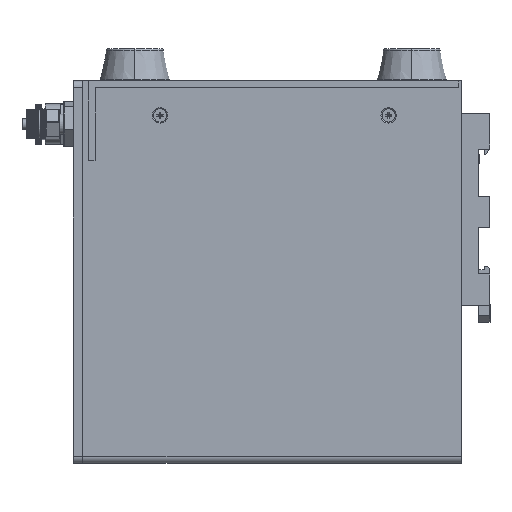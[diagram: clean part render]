
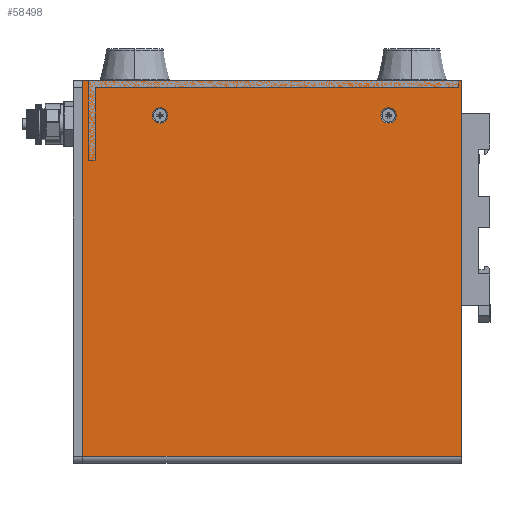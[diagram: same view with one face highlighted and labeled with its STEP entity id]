
A CAD part, left-side view. The second image highlights one B-rep face of the part: STEP entity #58498.
In plain terms, the highlighted planar face has unit normal (-1, 0, 0) as drawn and (1, 0, 0) by its records, which use the part's own axes.
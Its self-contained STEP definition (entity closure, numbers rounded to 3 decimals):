
#474 = CARTESIAN_POINT ( 'NONE',  ( 109.5, 10., 24.5 ) ) ;
#5752 = ORIENTED_EDGE ( 'NONE', *, *, #73566, .F. ) ;
#9963 = AXIS2_PLACEMENT_3D ( 'NONE', #21187, #92650, #52142 ) ;
#11633 = FACE_BOUND ( 'NONE', #29251, .T. ) ;
#13974 = DIRECTION ( 'NONE',  ( 0., 0., -1. ) ) ;
#14380 = DIRECTION ( 'NONE',  ( 0., 0., -1. ) ) ;
#15930 = EDGE_CURVE ( 'NONE', #16373, #63692, #68241, .T. ) ;
#16373 = VERTEX_POINT ( 'NONE', #91670 ) ;
#17803 = AXIS2_PLACEMENT_3D ( 'NONE', #78865, #22368, #14380 ) ;
#21187 = CARTESIAN_POINT ( 'NONE',  ( 109.5, 110.5, 109.3 ) ) ;
#21962 = CARTESIAN_POINT ( 'NONE',  ( 109.5, 10., 22.3 ) ) ;
#22368 = DIRECTION ( 'NONE',  ( 1., 0., 0. ) ) ;
#28715 = LINE ( 'NONE', #86276, #66592 ) ;
#29251 = EDGE_LOOP ( 'NONE', ( #54434, #86661 ) ) ;
#29445 = EDGE_LOOP ( 'NONE', ( #92708, #64950 ) ) ;
#31435 = VECTOR ( 'NONE', #103249, 1000. ) ;
#32067 = EDGE_CURVE ( 'NONE', #63692, #16373, #99559, .T. ) ;
#32113 = EDGE_LOOP ( 'NONE', ( #5752, #60460, #61167, #57089 ) ) ;
#32757 = VERTEX_POINT ( 'NONE', #46398 ) ;
#36101 = CARTESIAN_POINT ( 'NONE',  ( 109.5, 108.5, 109.3 ) ) ;
#37205 = FACE_BOUND ( 'NONE', #29445, .T. ) ;
#38821 = LINE ( 'NONE', #54812, #99036 ) ;
#40850 = EDGE_CURVE ( 'NONE', #93860, #104930, #66323, .T. ) ;
#43915 = EDGE_CURVE ( 'NONE', #64413, #68830, #100612, .T. ) ;
#43928 = VERTEX_POINT ( 'NONE', #36101 ) ;
#44079 = EDGE_CURVE ( 'NONE', #43928, #64413, #62713, .T. ) ;
#45144 = CARTESIAN_POINT ( 'NONE',  ( 109.5, 0., 109.3 ) ) ;
#45443 = CARTESIAN_POINT ( 'NONE',  ( 109.5, 0., 109.3 ) ) ;
#46398 = CARTESIAN_POINT ( 'NONE',  ( 109.5, 108.5, 0. ) ) ;
#50358 = CARTESIAN_POINT ( 'NONE',  ( 109.5, 10., 22.3 ) ) ;
#51845 = VECTOR ( 'NONE', #91555, 1000. ) ;
#52142 = DIRECTION ( 'NONE',  ( 0., 1., 0. ) ) ;
#52953 = AXIS2_PLACEMENT_3D ( 'NONE', #103137, #63125, #88153 ) ;
#54434 = ORIENTED_EDGE ( 'NONE', *, *, #57555, .F. ) ;
#54812 = CARTESIAN_POINT ( 'NONE',  ( 109.5, 110.5, 0. ) ) ;
#57089 = ORIENTED_EDGE ( 'NONE', *, *, #43915, .T. ) ;
#57555 = EDGE_CURVE ( 'NONE', #104930, #93860, #88100, .T. ) ;
#58498 = ADVANCED_FACE ( 'NONE', ( #37205, #11633, #68121 ), #69702, .T. ) ;
#60460 = ORIENTED_EDGE ( 'NONE', *, *, #73436, .T. ) ;
#61167 = ORIENTED_EDGE ( 'NONE', *, *, #44079, .T. ) ;
#62193 = CARTESIAN_POINT ( 'NONE',  ( 109.5, 110.5, 109.3 ) ) ;
#62713 = LINE ( 'NONE', #62193, #31435 ) ;
#63125 = DIRECTION ( 'NONE',  ( 1., 0., 0. ) ) ;
#63692 = VERTEX_POINT ( 'NONE', #96828 ) ;
#64413 = VERTEX_POINT ( 'NONE', #45443 ) ;
#64950 = ORIENTED_EDGE ( 'NONE', *, *, #15930, .F. ) ;
#66323 = CIRCLE ( 'NONE', #91837, 2.2 ) ;
#66592 = VECTOR ( 'NONE', #93223, 1000. ) ;
#68121 = FACE_OUTER_BOUND ( 'NONE', #32113, .T. ) ;
#68241 = CIRCLE ( 'NONE', #52953, 2.2 ) ;
#68830 = VERTEX_POINT ( 'NONE', #85235 ) ;
#69380 = AXIS2_PLACEMENT_3D ( 'NONE', #21962, #92907, #13974 ) ;
#69702 = PLANE ( 'NONE',  #9963 ) ;
#73436 = EDGE_CURVE ( 'NONE', #32757, #43928, #28715, .T. ) ;
#73566 = EDGE_CURVE ( 'NONE', #32757, #68830, #38821, .T. ) ;
#78865 = CARTESIAN_POINT ( 'NONE',  ( 109.5, 10., 88.3 ) ) ;
#80348 = DIRECTION ( 'NONE',  ( 0., -1., 0. ) ) ;
#81261 = DIRECTION ( 'NONE',  ( 0., 0., -1. ) ) ;
#85235 = CARTESIAN_POINT ( 'NONE',  ( 109.5, 0., 0. ) ) ;
#86276 = CARTESIAN_POINT ( 'NONE',  ( 109.5, 108.5, 109.3 ) ) ;
#86661 = ORIENTED_EDGE ( 'NONE', *, *, #40850, .F. ) ;
#88100 = CIRCLE ( 'NONE', #69380, 2.2 ) ;
#88153 = DIRECTION ( 'NONE',  ( 0., 0., -1. ) ) ;
#88738 = DIRECTION ( 'NONE',  ( 1., 0., 0. ) ) ;
#91052 = CARTESIAN_POINT ( 'NONE',  ( 109.5, 10., 20.1 ) ) ;
#91555 = DIRECTION ( 'NONE',  ( 0., 0., -1. ) ) ;
#91670 = CARTESIAN_POINT ( 'NONE',  ( 109.5, 10., 90.5 ) ) ;
#91837 = AXIS2_PLACEMENT_3D ( 'NONE', #50358, #88738, #81261 ) ;
#92650 = DIRECTION ( 'NONE',  ( 1., 0., 0. ) ) ;
#92708 = ORIENTED_EDGE ( 'NONE', *, *, #32067, .F. ) ;
#92907 = DIRECTION ( 'NONE',  ( 1., 0., 0. ) ) ;
#93223 = DIRECTION ( 'NONE',  ( 0., 0., 1. ) ) ;
#93860 = VERTEX_POINT ( 'NONE', #474 ) ;
#96828 = CARTESIAN_POINT ( 'NONE',  ( 109.5, 10., 86.1 ) ) ;
#99036 = VECTOR ( 'NONE', #80348, 1000. ) ;
#99559 = CIRCLE ( 'NONE', #17803, 2.2 ) ;
#100612 = LINE ( 'NONE', #45144, #51845 ) ;
#103137 = CARTESIAN_POINT ( 'NONE',  ( 109.5, 10., 88.3 ) ) ;
#103249 = DIRECTION ( 'NONE',  ( 0., -1., 0. ) ) ;
#104930 = VERTEX_POINT ( 'NONE', #91052 ) ;
